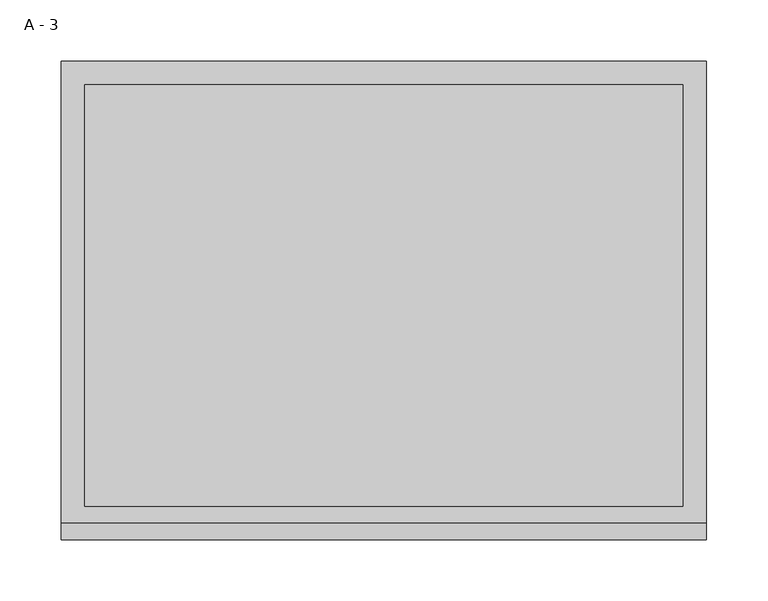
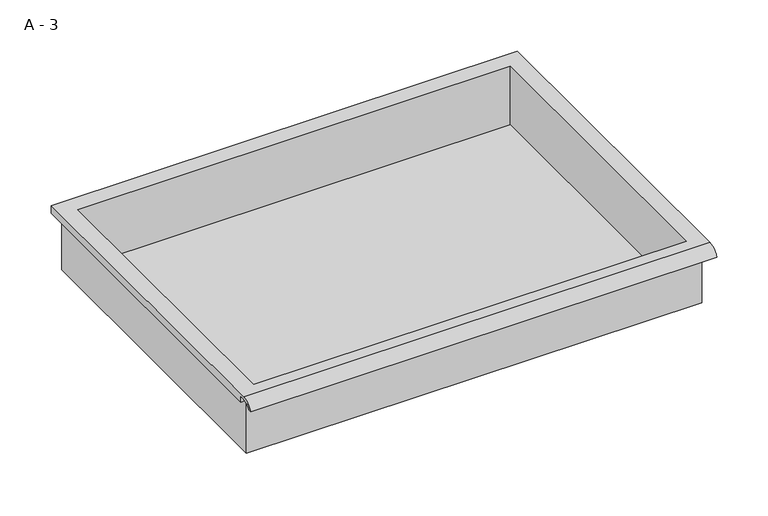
"""IFC4 building model written with IfcOpenShell, lengths in millimetres: furniture geometry, HermanMiller_CoStruc_CO207_Drawer : A - 3."""

from ifc_helpers import new_model, si_unit, frame, origin, place, context, project, spatial, polyline, circle_curve, source, transform, mapped, element, save
from ifc_brep_helpers import plane_surface, cylinder_surface, revolved_surface, advanced_brep


def a_3_71a075e6(model_context):
    return source(origin(), model_context, "Body", "AdvancedBrep", [
        advanced_brep(
        [(-257.1076517, -176.2125, 800.1), (257.2423483, -176.2125, 800.1), (257.2423483, -176.2125, 863.6), (263.5923483, -176.2125, 863.6), (263.5923483, -176.2125, 869.9071341), (-263.4576517, -176.2125, 869.9071341), (-263.4576517, -176.2125, 863.6), (-257.1076517, -176.2125, 863.6), (257.2423483, 185.7375, 800.1), (-257.1076517, 185.7375, 800.1), (-257.1076517, 185.7375, 863.6), (257.2423483, 185.7375, 863.6), (263.5923483, -181.6070544, 873.125), (263.5923483, 195.2625, 873.125), (-263.4576517, 195.2625, 873.125), (-263.4576517, -181.6070544, 873.125), (244.5423483, -168.275, 873.125), (-244.4076517, -168.275, 873.125), (-244.4076517, 176.2125, 873.125), (244.5423483, 176.2125, 873.125), (263.5923483, -195.2625, 863.6), (263.5923483, -191.8280601, 863.6), (263.5923483, -180.4714815, 869.9071341), (263.5923483, 195.2625, 863.6), (-263.4576517, 195.2625, 863.6), (-263.4576517, -180.4714815, 869.9071341), (-263.4576517, -191.8280601, 863.6), (-263.4576517, -195.2625, 863.6), (-244.4076517, -168.275, 803.1261719), (244.5423483, -168.275, 803.1261719), (244.5423483, 176.2125, 803.1261719), (-244.4076517, 176.2125, 803.1261719)],
        [
            (0, 1),
            (1, 2),
            (2, 3),
            (3, 4),
            (4, 5),
            (5, 6),
            (6, 7),
            (7, 0),
            (8, 9),
            (9, 10),
            (10, 11),
            (11, 8),
            (0, 9),
            (8, 1),
            (11, 2),
            (12, 13),
            (13, 14),
            (14, 15),
            (15, 12),
            (16, 17),
            (17, 18),
            (18, 19),
            (19, 16),
            (7, 10),
            (12, 20, circle_curve(frame((263.5923483, -181.6070544, 858.5739859), z_axis=(1.0, 0.0, 0.0), x_axis=(0.0, 1.0, 0.0)), 14.5510141)),
            (20, 21),
            (21, 22, circle_curve(frame((263.5923483, -181.6070544, 858.5739859), z_axis=(-1.0, 0.0, 0.0), x_axis=(0.0, 1.0, 0.0)), 11.3898979)),
            (22, 4),
            (3, 23),
            (23, 13),
            (14, 24),
            (24, 6),
            (5, 25),
            (25, 26, circle_curve(frame((-263.4576517, -181.6070544, 858.5739859), z_axis=(1.0, 0.0, 0.0), x_axis=(0.0, 1.0, 0.0)), 11.3898979)),
            (26, 27),
            (27, 15, circle_curve(frame((-263.4576517, -181.6070544, 858.5739859), z_axis=(-1.0, 0.0, 0.0), x_axis=(0.0, 1.0, 0.0)), 14.5510141)),
            (27, 20),
            (26, 21),
            (25, 22),
            (24, 23),
            (28, 29),
            (29, 30),
            (30, 31),
            (31, 28),
            (28, 17),
            (16, 29),
            (19, 30),
            (18, 31),
        ],
        [
            plane_surface(frame((257.2423483, -176.2125, 800.1), z_axis=(0.0, -1.0, 0.0), x_axis=(1.0, 0.0, 0.0))),
            plane_surface(frame((257.2423483, 185.7375, 800.1), z_axis=(0.0, 1.0, 0.0), x_axis=(-1.0, 0.0, 0.0))),
            plane_surface(frame((-257.1076517, -176.2125, 800.1), z_axis=(0.0, 0.0, -1.0), x_axis=(0.0, 1.0, 0.0))),
            plane_surface(frame((257.2423483, -176.2125, 800.1), z_axis=(1.0, 0.0, 0.0), x_axis=(0.0, 1.0, 0.0))),
            plane_surface(frame((257.2423483, -176.2125, 873.125), z_axis=(0.0, 0.0, 1.0), x_axis=(0.0, 1.0, 0.0))),
            plane_surface(frame((-257.1076517, -176.2125, 873.125), z_axis=(-1.0, 0.0, 0.0), x_axis=(0.0, 1.0, 0.0))),
            plane_surface(frame((263.5923483, 195.2625, 873.125), z_axis=(1.0, 0.0, 0.0), x_axis=(0.0, -1.0, 0.0))),
            plane_surface(frame((-263.4576517, 195.2625, 873.125), z_axis=(-1.0, 0.0, 0.0), x_axis=(0.0, 1.0, 0.0))),
            cylinder_surface(frame((-263.4576517, -181.6070544, 858.5739859), z_axis=(1.0, 0.0, 0.0), x_axis=(0.0, 1.0, 0.0)), 14.5510141),
            plane_surface(frame((263.5923483, -195.2625, 863.6), z_axis=(0.0, -7.330645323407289e-12, -1.0), x_axis=(-1.0, 0.0, 0.0))),
            revolved_surface(polyline([(-263.4576517, -170.21715650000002, 858.5739859), (263.59234829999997, -170.21715650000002, 858.5739859)]), (-263.4576517, -181.6070544, 858.5739859), (-1.0, 0.0, 0.0)),
            plane_surface(frame((263.5923483, -180.4714815, 869.9071341), z_axis=(0.0, -1.8083883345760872e-11, -1.0), x_axis=(-1.0, 0.0, 0.0))),
            plane_surface(frame((263.5923483, -176.2125, 863.6), z_axis=(0.0, 0.0, -1.0), x_axis=(-1.0, 0.0, 0.0))),
            plane_surface(frame((263.5923483, 195.2625, 863.6), z_axis=(0.0, 1.0, 0.0), x_axis=(-1.0, 0.0, 0.0))),
            plane_surface(frame((244.5423483, -168.275, 803.1261719), z_axis=(0.0, 0.0, 1.0), x_axis=(-1.0, 0.0, 0.0))),
            plane_surface(frame((-244.4076517, -168.275, 873.125), z_axis=(0.0, 1.0, 0.0), x_axis=(0.0, 0.0, -1.0))),
            plane_surface(frame((244.5423483, -168.275, 873.125), z_axis=(-1.0, 0.0, 0.0), x_axis=(0.0, 0.0, -1.0))),
            plane_surface(frame((244.5423483, 176.2125, 873.125), z_axis=(0.0, -1.0, 0.0), x_axis=(0.0, 0.0, -1.0))),
            plane_surface(frame((-244.4076517, 176.2125, 873.125), z_axis=(1.0, 0.0, 0.0), x_axis=(0.0, 0.0, -1.0))),
        ],
        [
            (0, [[1, 2, 3, 4, 5, 6, 7, 8]]),
            (1, [[9, 10, 11, 12]]),
            (2, [[-1, 13, -9, 14]]),
            (3, [[-14, -12, 15, -2]]),
            (4, [[16, 17, 18, 19], [20, 21, 22, 23]]),
            (5, [[-13, -8, 24, -10]]),
            (6, [[-16, 25, 26, 27, 28, -4, 29, 30]]),
            (7, [[31, 32, -6, 33, 34, 35, 36, -18]]),
            (8, [[-25, -19, -36, 37]]),
            (9, [[-26, -37, -35, 38]]),
            (10, [[-27, -38, -34, 39]]),
            (11, [[-28, -39, -33, -5]]),
            (12, [[-29, -3, -15, -11, -24, -7, -32, 40]]),
            (13, [[-30, -40, -31, -17]]),
            (14, [[41, 42, 43, 44]]),
            (15, [[-41, 45, -20, 46]]),
            (16, [[-42, -46, -23, 47]]),
            (17, [[-43, -47, -22, 48]]),
            (18, [[-44, -48, -21, -45]]),
        ],
    ),
    ])


if __name__ == "__main__":
    model = new_model("IFC4")
    model_context = context("Model", 3, world=origin())
    ifc_project = project(units=[si_unit("LENGTHUNIT", "METRE", prefix="MILLI")], contexts=[model_context])
    site = spatial("IfcSite", under=ifc_project)
    building = spatial("IfcBuilding", under=site)
    placement = place(None, origin())
    a_3_shape = a_3_71a075e6(model_context)
    element("IfcFurniture", 1, ObjectType="HermanMiller_CoStruc_CO207_Drawer : A - 3", at=placement, inside=building, context=model_context, shape_type="MappedRepresentation", body=[
        mapped(a_3_shape, transform((0.0, 0.0, 0.0), x_axis=(1.0, 0.0, 0.0), y_axis=(0.0, 1.0, 0.0), z_axis=(0.0, 0.0, 1.0))),
    ])
    save(model, "model.ifc")
